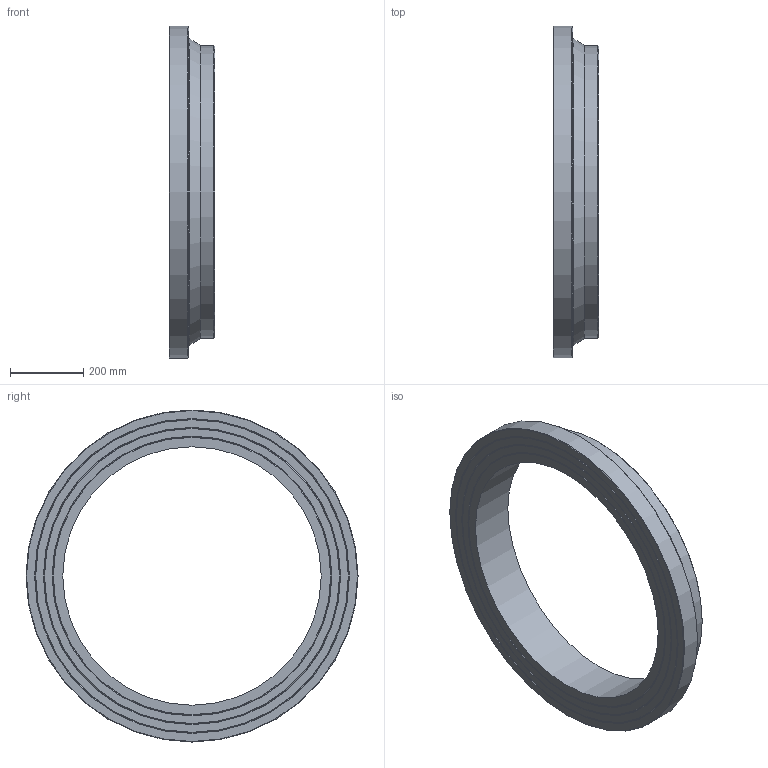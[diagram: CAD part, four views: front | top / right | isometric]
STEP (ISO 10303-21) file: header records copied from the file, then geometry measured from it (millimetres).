
FILE_DESCRIPTION(/* description */ ('Unknown'),/* implementation_level */ '2;1');
FILE_NAME(/* name */ 'CCP800B',/* time_stamp */ '2022-04-05T08:59:11+02:00',/* author */ ('Unknown'),/* organization */ ('Unknown'),/* preprocessor_version */ 'ST-DEVELOPER v18.1',/* originating_system */ 'Solid Edge',/* authorisation */ 'Unknown');
FILE_SCHEMA (('AUTOMOTIVE_DESIGN {1 0 10303 214 3 1 1}'));
Length unit declared in the file: millimetre
Products named in the file (1): CCP800B
Bounding box: 125 x 906 x 906 mm (x, y, z)
Volume: 22335339 mm3; surface area: 1076965.7 mm2
Topology: 1 solids, 1 shells, 20 faces, 35 edges, 21 vertices
Faces by surface type: cone 10, plane 6, cylinder 3, torus 1
Full cylindrical faces by diameter (mm): 705.2 x1, 800 x1, 906 x1
Entity records: 438 total; most frequent: DIRECTION 82, CARTESIAN_POINT 61, AXIS2_PLACEMENT_3D 41, ORIENTED_EDGE 40, EDGE_LOOP 40, FACE_BOUND 40, EDGE_CURVE 20, VERTEX_POINT 20
